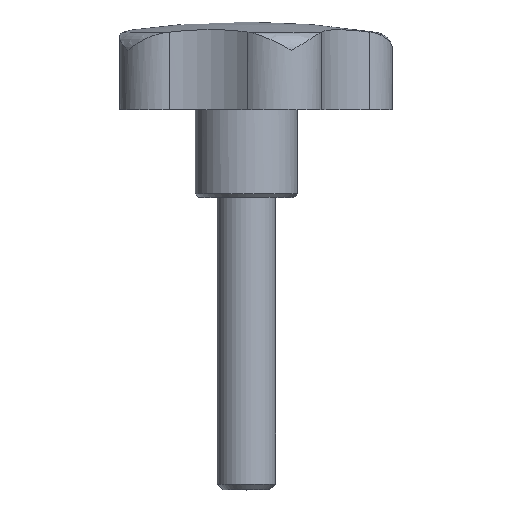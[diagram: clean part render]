
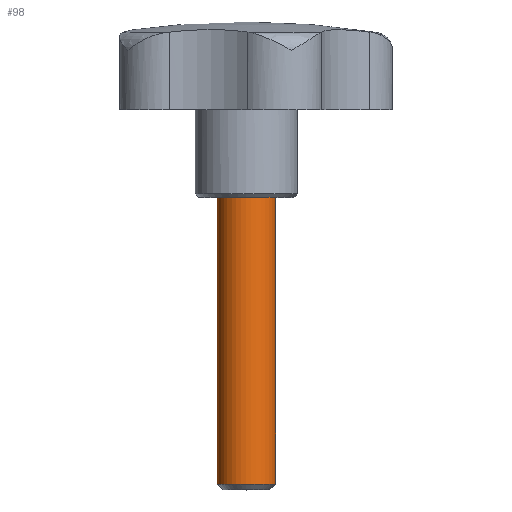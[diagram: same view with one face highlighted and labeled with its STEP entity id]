
A CAD part, top view. The second image highlights one B-rep face of the part: STEP entity #98.
In plain terms, the highlighted cylindrical face has radius 4 mm (diameter 8 mm), a full revolution.
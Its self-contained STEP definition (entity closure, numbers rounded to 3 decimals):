
#98 = ADVANCED_FACE( '', ( #177, #178 ), #179, .T. );
#177 = FACE_OUTER_BOUND( '', #283, .T. );
#178 = FACE_OUTER_BOUND( '', #284, .T. );
#179 = CYLINDRICAL_SURFACE( '', #285, 4. );
#283 = EDGE_LOOP( '', ( #569 ) );
#284 = EDGE_LOOP( '', ( #570 ) );
#285 = AXIS2_PLACEMENT_3D( '', #571, #572, #573 );
#569 = ORIENTED_EDGE( '', *, *, #855, .F. );
#570 = ORIENTED_EDGE( '', *, *, #854, .T. );
#571 = CARTESIAN_POINT( '', ( 0., -40., 0. ) );
#572 = DIRECTION( '', ( 0., 1., 0. ) );
#573 = DIRECTION( '', ( 0., 0., -1. ) );
#854 = EDGE_CURVE( '', #1067, #1067, #1068, .T. );
#855 = EDGE_CURVE( '', #1069, #1069, #1070, .T. );
#1067 = VERTEX_POINT( '', #1695 );
#1068 = CIRCLE( '', #1696, 4. );
#1069 = VERTEX_POINT( '', #1697 );
#1070 = CIRCLE( '', #1698, 4. );
#1695 = CARTESIAN_POINT( '', ( 0., 0., -4. ) );
#1696 = AXIS2_PLACEMENT_3D( '', #1969, #1970, #1971 );
#1697 = CARTESIAN_POINT( '', ( 0., -39.2, -4. ) );
#1698 = AXIS2_PLACEMENT_3D( '', #1972, #1973, #1974 );
#1969 = CARTESIAN_POINT( '', ( 0., 0., 0. ) );
#1970 = DIRECTION( '', ( 0., -1., 0. ) );
#1971 = DIRECTION( '', ( 0., 0., -1. ) );
#1972 = CARTESIAN_POINT( '', ( 0., -39.2, 0. ) );
#1973 = DIRECTION( '', ( 0., -1., 0. ) );
#1974 = DIRECTION( '', ( 0., 0., -1. ) );
